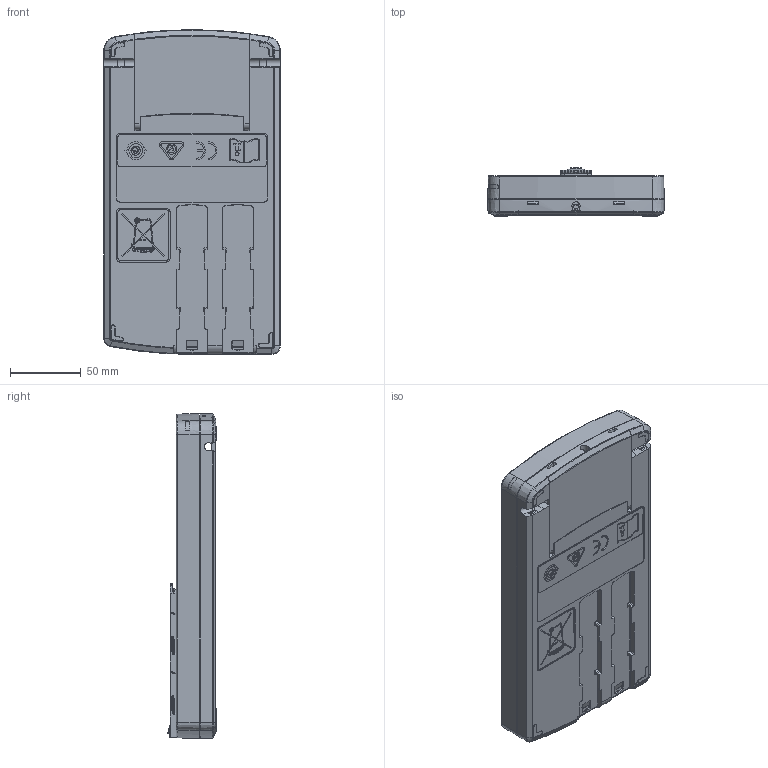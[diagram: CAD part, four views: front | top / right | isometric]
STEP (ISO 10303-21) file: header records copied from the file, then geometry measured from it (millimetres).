
FILE_DESCRIPTION((''),'2;1');
FILE_NAME('1019W4001','2016-06-17T',('TI'),(''),'CREO PARAMETRIC BY PTC INC, 2016050','CREO PARAMETRIC BY PTC INC, 2016050','');
FILE_SCHEMA(('CONFIG_CONTROL_DESIGN'));
Length unit declared in the file: millimetre
Products named in the file (1): 1019W4001
Bounding box: 125 x 34.08 x 230 mm (x, y, z)
Volume: 703998.7 mm3; surface area: 100729.4 mm2
Topology: 1 solids, 10 shells, 2441 faces, 6195 edges, 3793 vertices
Faces by surface type: cylinder 784, plane 677, bspline 479, cone 234, torus 209, sphere 54, extrusion 4
Entity records: 99809 total; most frequent: CARTESIAN_POINT 45380, ORIENTED_EDGE 12290, DIRECTION 10122, EDGE_CURVE 6145, AXIS2_PLACEMENT_3D 3812, VERTEX_POINT 3793, EDGE_LOOP 2524, VECTOR 2498
